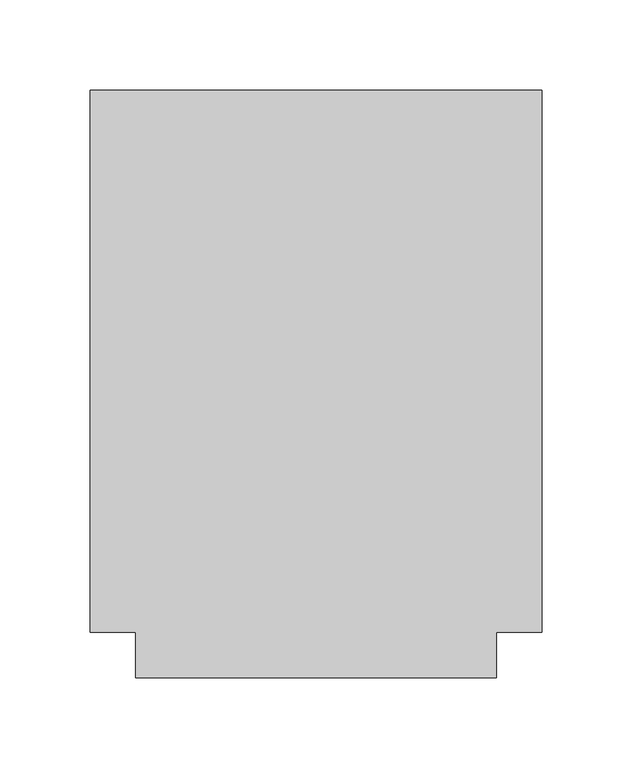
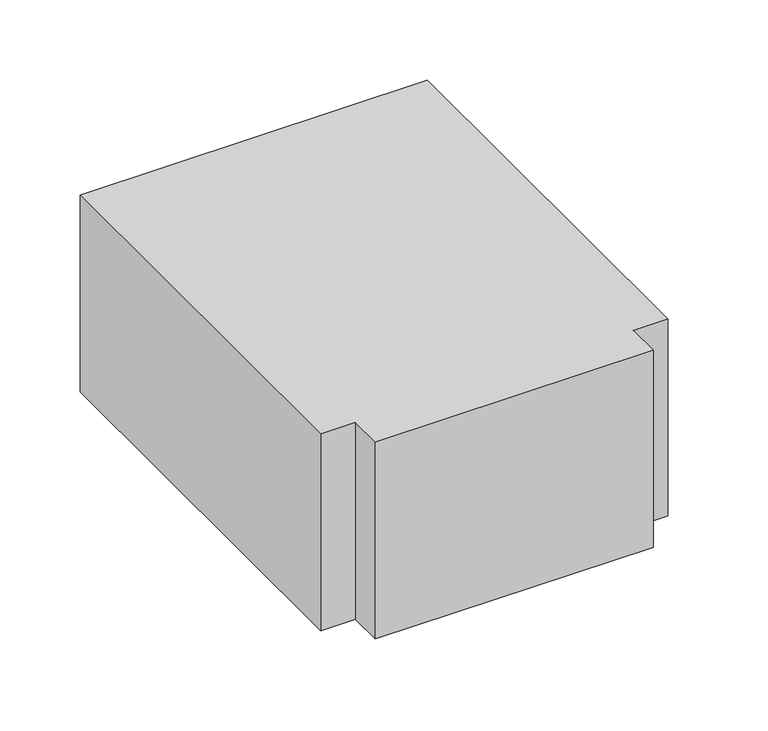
"""IFC4 building model written with IfcOpenShell, lengths in millimetres: duct fitting geometry, M_Te rectangular : Estándar."""

from ifc_helpers import new_model, si_unit, frame, origin, place, context, project, spatial, polyline, outline, extrude, source, transform, mapped, element, save


def duct_fitting_99cfdc00(model_context):
    return source(origin(), model_context, "Body", "SweptSolid", [
        extrude(outline(polyline([(-125.0, -150.0), (-125.0, 150.0), (125.0, 150.0), (125.0, -150.0), (100.0, -150.0), (100.0, -175.0), (-100.0, -175.0), (-100.0, -150.0), (-125.0, -150.0)])), frame((0.0, 0.0, -75.0), z_axis=(0.0, 0.0, 1.0), x_axis=(1.0, 0.0, 0.0)), (0.0, 0.0, 1.0), 150.0),
    ])


if __name__ == "__main__":
    model = new_model("IFC4")
    model_context = context("Model", 3, world=origin())
    ifc_project = project(units=[si_unit("LENGTHUNIT", "METRE", prefix="MILLI")], contexts=[model_context])
    site = spatial("IfcSite", under=ifc_project)
    building = spatial("IfcBuilding", under=site)
    placement = place(None, origin())
    duct_fitting_shape = duct_fitting_99cfdc00(model_context)
    element("IfcDuctFitting", 1, ObjectType="M_Te rectangular : Estándar", at=placement, inside=building, context=model_context, shape_type="MappedRepresentation", body=[
        mapped(duct_fitting_shape, transform((0.0, 0.0, 0.0), x_axis=(1.0, 0.0, 0.0), y_axis=(0.0, 1.0, 0.0), z_axis=(0.0, 0.0, 1.0))),
    ])
    save(model, "model.ifc")
